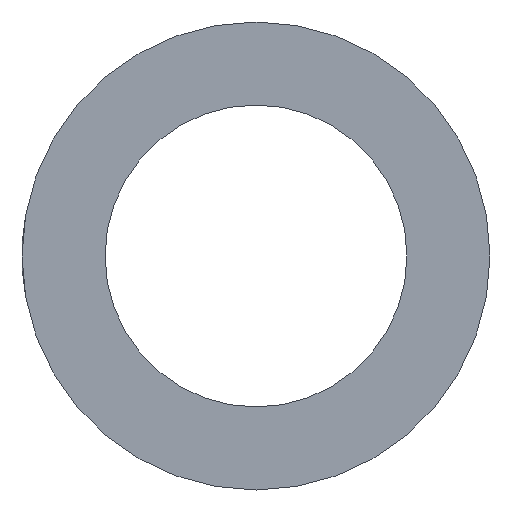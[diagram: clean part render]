
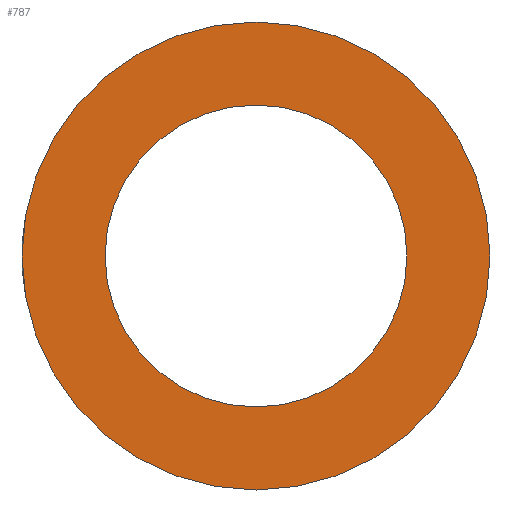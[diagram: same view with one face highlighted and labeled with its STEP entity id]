
A CAD part, left-side view. The second image highlights one B-rep face of the part: STEP entity #787.
In plain terms, the highlighted planar face has unit normal (-1, 0, 0).
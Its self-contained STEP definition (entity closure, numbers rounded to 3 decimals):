
#1 = CARTESIAN_POINT ( 'NONE',  ( 0., 0., -31. ) ) ;
#2 = DIRECTION ( 'NONE',  ( 1., 0., 0. ) ) ;
#3 = DIRECTION ( 'NONE',  ( 0., 0., -1. ) ) ;
#36 = CIRCLE ( 'NONE', #37, 31. ) ;
#37 = AXIS2_PLACEMENT_3D ( 'NONE', #38, #39, #40 ) ;
#38 = CARTESIAN_POINT ( 'NONE',  ( 0., 0., 0. ) ) ;
#39 = DIRECTION ( 'NONE',  ( -1., 0., 0. ) ) ;
#40 = DIRECTION ( 'NONE',  ( 0., 0., 1. ) ) ;
#94 = CARTESIAN_POINT ( 'NONE',  ( 0., 0., 31. ) ) ;
#218 = EDGE_CURVE ( 'NONE', #230, #267, #36, .T. ) ;
#224 = ORIENTED_EDGE ( 'NONE', *, *, #824, .T. ) ;
#230 = VERTEX_POINT ( 'NONE', #94 ) ;
#265 = EDGE_CURVE ( 'NONE', #289, #828, #336, .T. ) ;
#267 = VERTEX_POINT ( 'NONE', #347 ) ;
#274 = ORIENTED_EDGE ( 'NONE', *, *, #218, .T. ) ;
#289 = VERTEX_POINT ( 'NONE', #439 ) ;
#303 = ORIENTED_EDGE ( 'NONE', *, *, #265, .F. ) ;
#315 = EDGE_CURVE ( 'NONE', #828, #289, #721, .T. ) ;
#326 = EDGE_LOOP ( 'NONE', ( #274, #224 ) ) ;
#336 = CIRCLE ( 'NONE', #337, 20. ) ;
#337 = AXIS2_PLACEMENT_3D ( 'NONE', #338, #339, #340 ) ;
#338 = CARTESIAN_POINT ( 'NONE',  ( 0., 0., 0. ) ) ;
#339 = DIRECTION ( 'NONE',  ( -1., 0., 0. ) ) ;
#340 = DIRECTION ( 'NONE',  ( 0., 0., 1. ) ) ;
#347 = CARTESIAN_POINT ( 'NONE',  ( 0., 0., -31. ) ) ;
#406 = ORIENTED_EDGE ( 'NONE', *, *, #315, .F. ) ;
#439 = CARTESIAN_POINT ( 'NONE',  ( 0., 0., 20. ) ) ;
#496 = EDGE_LOOP ( 'NONE', ( #303, #406 ) ) ;
#522 = CIRCLE ( 'NONE', #523, 31. ) ;
#523 = AXIS2_PLACEMENT_3D ( 'NONE', #524, #525, #526 ) ;
#524 = CARTESIAN_POINT ( 'NONE',  ( 0., 0., 0. ) ) ;
#525 = DIRECTION ( 'NONE',  ( -1., 0., 0. ) ) ;
#526 = DIRECTION ( 'NONE',  ( 0., 0., 1. ) ) ;
#710 = CARTESIAN_POINT ( 'NONE',  ( 0., 0., -20. ) ) ;
#721 = CIRCLE ( 'NONE', #722, 20. ) ;
#722 = AXIS2_PLACEMENT_3D ( 'NONE', #723, #724, #725 ) ;
#723 = CARTESIAN_POINT ( 'NONE',  ( 0., 0., 0. ) ) ;
#724 = DIRECTION ( 'NONE',  ( -1., 0., 0. ) ) ;
#725 = DIRECTION ( 'NONE',  ( 0., 0., 1. ) ) ;
#787 = ADVANCED_FACE ( 'NONE', ( #800, #801 ), #802, .F. ) ;
#800 = FACE_BOUND ( 'NONE', #496, .T. ) ;
#801 = FACE_OUTER_BOUND ( 'NONE', #326, .T. ) ;
#802 = PLANE ( 'NONE',  #803 ) ;
#803 = AXIS2_PLACEMENT_3D ( 'NONE', #1, #2, #3 ) ;
#824 = EDGE_CURVE ( 'NONE', #267, #230, #522, .T. ) ;
#828 = VERTEX_POINT ( 'NONE', #710 ) ;
